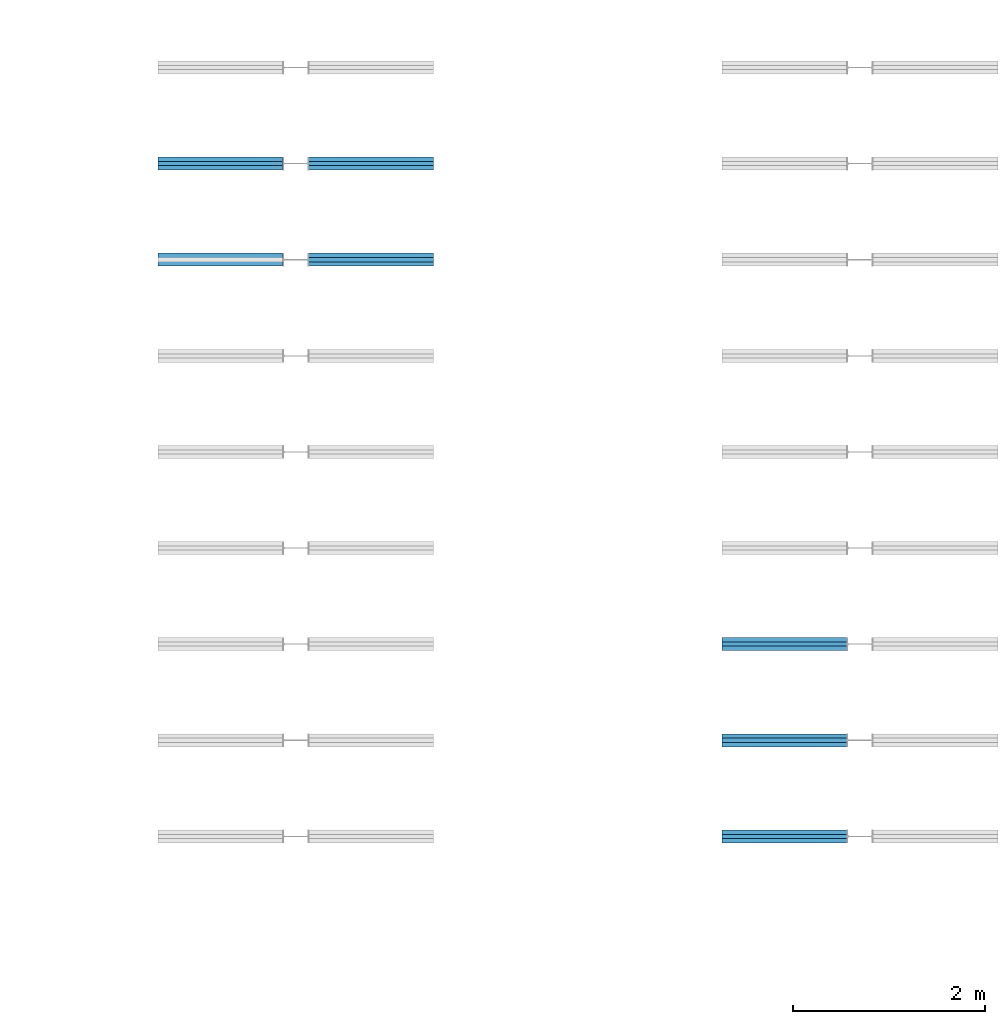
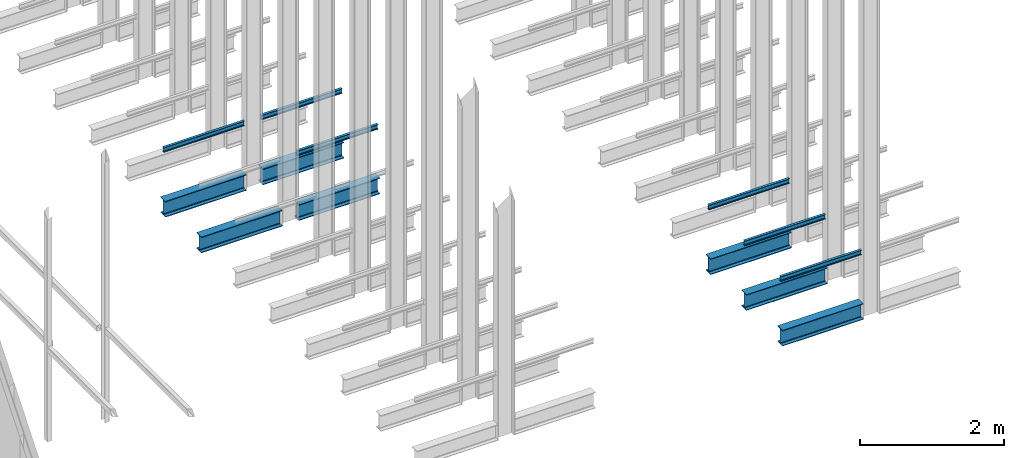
# One storey, part 160 of 302: 13 beams.
"""IFC2X3 building model written with IfcOpenShell, lengths in metres."""

from ifc_helpers import new_model, entity, si_unit, converted_unit, derived_unit, direction, frame, frame_2d, origin, place, context, subcontext, project, spatial, polyline, circle_curve, parameter, trimmed, segment, composite_curve, i_section, outline, extrude, material, type_object, element, save


model = new_model("IFC2X3")

# Units and contexts
model_context = context("Model", 3, precision=1e-05, world=origin(), true_north=direction((6.12303176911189e-17, 1.0)))
body_context = subcontext(model_context, "Body", "Model", "MODEL_VIEW")
ifc_project = project(units=[si_unit("LENGTHUNIT", "METRE"), si_unit("AREAUNIT", "SQUARE_METRE"), si_unit("VOLUMEUNIT", "CUBIC_METRE"), converted_unit("PLANEANGLEUNIT", "DEGREE", entity("IfcRatioMeasure", 0.0174532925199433), si_unit("PLANEANGLEUNIT", "RADIAN"), dimensions=[0, 0, 0, 0, 0, 0, 0]), si_unit("MASSUNIT", "GRAM", prefix="KILO"), derived_unit("MASSDENSITYUNIT", [(si_unit("MASSUNIT", "GRAM", prefix="KILO"), 1), (si_unit("LENGTHUNIT", "METRE"), -3)]), derived_unit("MOMENTOFINERTIAUNIT", [(si_unit("LENGTHUNIT", "METRE"), 4)]), si_unit("TIMEUNIT", "SECOND"), si_unit("FREQUENCYUNIT", "HERTZ"), si_unit("THERMODYNAMICTEMPERATUREUNIT", "DEGREE_CELSIUS"), derived_unit("THERMALTRANSMITTANCEUNIT", [(si_unit("MASSUNIT", "GRAM", prefix="KILO"), 1), (si_unit("THERMODYNAMICTEMPERATUREUNIT", "KELVIN"), -1), (si_unit("TIMEUNIT", "SECOND"), -3)]), derived_unit("VOLUMETRICFLOWRATEUNIT", [(si_unit("LENGTHUNIT", "METRE"), 3), (si_unit("TIMEUNIT", "SECOND"), -1)]), si_unit("ELECTRICCURRENTUNIT", "AMPERE"), si_unit("ELECTRICVOLTAGEUNIT", "VOLT"), si_unit("POWERUNIT", "WATT"), si_unit("FORCEUNIT", "NEWTON", prefix="KILO"), si_unit("ILLUMINANCEUNIT", "LUX"), si_unit("LUMINOUSFLUXUNIT", "LUMEN"), si_unit("LUMINOUSINTENSITYUNIT", "CANDELA"), derived_unit("USERDEFINED", [(si_unit("MASSUNIT", "GRAM", prefix="KILO"), -1), (si_unit("LENGTHUNIT", "METRE"), -2), (si_unit("TIMEUNIT", "SECOND"), 3), (si_unit("LUMINOUSFLUXUNIT", "LUMEN"), 1)]), derived_unit("LINEARVELOCITYUNIT", [(si_unit("LENGTHUNIT", "METRE"), 1), (si_unit("TIMEUNIT", "SECOND"), -1)]), si_unit("PRESSUREUNIT", "PASCAL"), derived_unit("USERDEFINED", [(si_unit("LENGTHUNIT", "METRE"), -2), (si_unit("MASSUNIT", "GRAM", prefix="KILO"), 1), (si_unit("TIMEUNIT", "SECOND"), -2)]), derived_unit("LINEARFORCEUNIT", [(si_unit("MASSUNIT", "GRAM", prefix="KILO"), 1), (si_unit("LENGTHUNIT", "METRE"), 1), (si_unit("TIMEUNIT", "SECOND"), -2), (si_unit("LENGTHUNIT", "METRE"), -1)]), derived_unit("PLANARFORCEUNIT", [(si_unit("MASSUNIT", "GRAM", prefix="KILO"), 1), (si_unit("LENGTHUNIT", "METRE"), 1), (si_unit("TIMEUNIT", "SECOND"), -2), (si_unit("LENGTHUNIT", "METRE"), -2)])], contexts=[model_context])

# Site, building, storey
site_placement = place(None, origin())
site = spatial("IfcSite", under=ifc_project, at=site_placement, Name="Default", CompositionType="ELEMENT")
building_placement = place(site_placement, origin())
building = spatial("IfcBuilding", under=site, at=building_placement, CompositionType="ELEMENT")
storey_placement = place(building_placement, frame((0.0, 0.0, -1.3)))
storey = spatial("IfcBuildingStorey", under=building, at=storey_placement, Name="00_EG", CompositionType="ELEMENT", Elevation=-1.3)

# Beams
ifc_material = material(Name="Metall - Baustahl S235")
beam_type_1 = type_object("IfcBeamType", Name="IPN Träger:IPN 80", PredefinedType="NOTDEFINED")
beam_1_placement = place(storey_placement, frame((-170.510111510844, 30.994588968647, 2.42)))
element("IfcBeam", 1, at=beam_1_placement, inside=storey, type_object=beam_type_1, material=ifc_material, Name="IPN Träger:IPN 80", ObjectType="IPN Träger:IPN 80", context=body_context, shape_type="SweptSolid", body=[
    extrude(outline(composite_curve([segment(polyline([(0.0375704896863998, -0.0210000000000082), (0.0399999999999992, -0.0210000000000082)]), True, "CONTINUOUS"), segment(polyline([(0.0399999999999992, -0.0210000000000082), (0.0399999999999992, 0.0209999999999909)]), True, "CONTINUOUS"), segment(polyline([(0.039999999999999, 0.0209999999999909), (0.037570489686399, 0.0209999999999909)]), True, "CONTINUOUS"), segment(trimmed(circle_curve(frame_2d((0.037570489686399, 0.0186999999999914), x_axis=(0.0, 1.0)), 0.00230000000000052), [parameter(0.0)], [parameter(82.0299999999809)], True, "PARAMETER"), True, "CONTINUOUS"), segment(polyline([(0.0352927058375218, 0.019018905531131), (0.0333732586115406, 0.00530924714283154)]), True, "CONTINUOUS"), segment(trimmed(circle_curve(frame_2d((0.0295109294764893, 0.00584999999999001), x_axis=(0.990340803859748, -0.138654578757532)), 0.00389999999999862), [parameter(277.969999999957)], [parameter(0.0)], True, "PARAMETER"), False, "CONTINUOUS"), segment(polyline([(0.0295109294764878, 0.00194999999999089), (-0.0295109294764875, 0.00194999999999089)]), True, "CONTINUOUS"), segment(trimmed(circle_curve(frame_2d((-0.029510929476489, 0.00584999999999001), x_axis=(0.0, -1.0)), 0.00389999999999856), [parameter(277.969999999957)], [parameter(0.0)], True, "PARAMETER"), False, "CONTINUOUS"), segment(polyline([(-0.0333732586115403, 0.00530924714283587), (-0.0352927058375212, 0.0190189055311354)]), True, "CONTINUOUS"), segment(trimmed(circle_curve(frame_2d((-0.0375704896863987, 0.0186999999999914), x_axis=(0.990340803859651, 0.138654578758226)), 0.00230000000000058), [parameter(0.0)], [parameter(82.029999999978)], True, "PARAMETER"), True, "CONTINUOUS"), segment(polyline([(-0.0375704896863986, 0.0209999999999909), (-0.0400000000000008, 0.0209999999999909)]), True, "CONTINUOUS"), segment(polyline([(-0.0400000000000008, 0.0209999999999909), (-0.0400000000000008, -0.0210000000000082)]), True, "CONTINUOUS"), segment(polyline([(-0.0400000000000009, -0.0210000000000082), (-0.037570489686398, -0.0210000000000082)]), True, "CONTINUOUS"), segment(trimmed(circle_curve(frame_2d((-0.0375704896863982, -0.0187000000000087), x_axis=(0.0, -1.0)), 0.00230000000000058), [parameter(0.0)], [parameter(82.029999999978)], True, "PARAMETER"), True, "CONTINUOUS"), segment(polyline([(-0.0352927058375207, -0.0190189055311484), (-0.0333732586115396, -0.0053092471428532)]), True, "CONTINUOUS"), segment(trimmed(circle_curve(frame_2d((-0.0295109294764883, -0.00585000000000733), x_axis=(-0.990340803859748, 0.138654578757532)), 0.00389999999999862), [parameter(277.969999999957)], [parameter(0.0)], True, "PARAMETER"), False, "CONTINUOUS"), segment(polyline([(-0.0295109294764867, -0.00195000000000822), (0.0295109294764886, -0.00195000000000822)]), True, "CONTINUOUS"), segment(trimmed(circle_curve(frame_2d((0.0295109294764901, -0.00585000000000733), x_axis=(0.0, 1.0)), 0.00389999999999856), [parameter(277.969999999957)], [parameter(0.0)], True, "PARAMETER"), False, "CONTINUOUS"), segment(polyline([(0.0333732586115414, -0.0053092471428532), (0.0352927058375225, -0.0190189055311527)]), True, "CONTINUOUS"), segment(trimmed(circle_curve(frame_2d((0.0375704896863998, -0.0187000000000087), x_axis=(-0.990340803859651, -0.138654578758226)), 0.00230000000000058), [parameter(0.0)], [parameter(82.029999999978)], True, "PARAMETER"), True, "CONTINUOUS")], self_intersect=False)), frame((0.000100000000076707, 0.0210000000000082, -0.0400000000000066), z_axis=(1.0, 0.0, 0.0), x_axis=(0.0, 0.0, -1.0)), (0.0, 0.0, 1.0), 1.29990000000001),
])
beam_2_placement = place(storey_placement, frame((-170.780111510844, 31.036588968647, 2.42), z_axis=(0.0, 0.0, 1.0), x_axis=(-1.0, 0.0, 0.0)))
element("IfcBeam", 2, at=beam_2_placement, inside=storey, type_object=beam_type_1, material=ifc_material, Name="IPN Träger:IPN 80", ObjectType="IPN Träger:IPN 80", context=body_context, shape_type="SweptSolid", body=[
    extrude(outline(composite_curve([segment(polyline([(0.0375704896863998, -0.0209999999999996), (0.0399999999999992, -0.0209999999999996)]), True, "CONTINUOUS"), segment(polyline([(0.0399999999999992, -0.0209999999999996), (0.0399999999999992, 0.0209999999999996)]), True, "CONTINUOUS"), segment(polyline([(0.039999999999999, 0.0209999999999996), (0.037570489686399, 0.0209999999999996)]), True, "CONTINUOUS"), segment(trimmed(circle_curve(frame_2d((0.037570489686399, 0.0187000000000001), x_axis=(0.0, 1.0)), 0.00230000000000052), [parameter(0.0)], [parameter(82.0299999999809)], True, "PARAMETER"), True, "CONTINUOUS"), segment(polyline([(0.0352927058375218, 0.0190189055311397), (0.0333732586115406, 0.00530924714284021)]), True, "CONTINUOUS"), segment(trimmed(circle_curve(frame_2d((0.0295109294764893, 0.00584999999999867), x_axis=(0.990340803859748, -0.138654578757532)), 0.00389999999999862), [parameter(277.969999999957)], [parameter(0.0)], True, "PARAMETER"), False, "CONTINUOUS"), segment(polyline([(0.0295109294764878, 0.00194999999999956), (-0.0295109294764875, 0.00194999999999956)]), True, "CONTINUOUS"), segment(trimmed(circle_curve(frame_2d((-0.029510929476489, 0.00584999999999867), x_axis=(0.0, -1.0)), 0.00389999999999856), [parameter(277.969999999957)], [parameter(0.0)], True, "PARAMETER"), False, "CONTINUOUS"), segment(polyline([(-0.0333732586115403, 0.00530924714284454), (-0.0352927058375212, 0.019018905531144)]), True, "CONTINUOUS"), segment(trimmed(circle_curve(frame_2d((-0.0375704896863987, 0.0187000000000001), x_axis=(0.990340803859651, 0.138654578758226)), 0.00230000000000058), [parameter(0.0)], [parameter(82.029999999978)], True, "PARAMETER"), True, "CONTINUOUS"), segment(polyline([(-0.0375704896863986, 0.0209999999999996), (-0.0400000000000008, 0.0209999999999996)]), True, "CONTINUOUS"), segment(polyline([(-0.0400000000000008, 0.0209999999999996), (-0.0400000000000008, -0.0209999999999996)]), True, "CONTINUOUS"), segment(polyline([(-0.0400000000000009, -0.0209999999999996), (-0.037570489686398, -0.0209999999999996)]), True, "CONTINUOUS"), segment(trimmed(circle_curve(frame_2d((-0.0375704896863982, -0.0187000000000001), x_axis=(0.0, -1.0)), 0.00230000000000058), [parameter(0.0)], [parameter(82.029999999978)], True, "PARAMETER"), True, "CONTINUOUS"), segment(polyline([(-0.0352927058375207, -0.0190189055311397), (-0.0333732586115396, -0.00530924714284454)]), True, "CONTINUOUS"), segment(trimmed(circle_curve(frame_2d((-0.0295109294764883, -0.00584999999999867), x_axis=(-0.990340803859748, 0.138654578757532)), 0.00389999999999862), [parameter(277.969999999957)], [parameter(0.0)], True, "PARAMETER"), False, "CONTINUOUS"), segment(polyline([(-0.0295109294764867, -0.00194999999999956), (0.0295109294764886, -0.00194999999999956)]), True, "CONTINUOUS"), segment(trimmed(circle_curve(frame_2d((0.0295109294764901, -0.00584999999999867), x_axis=(0.0, 1.0)), 0.00389999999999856), [parameter(277.969999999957)], [parameter(0.0)], True, "PARAMETER"), False, "CONTINUOUS"), segment(polyline([(0.0333732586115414, -0.00530924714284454), (0.0352927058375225, -0.019018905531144)]), True, "CONTINUOUS"), segment(trimmed(circle_curve(frame_2d((0.0375704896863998, -0.0187000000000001), x_axis=(-0.990340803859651, -0.138654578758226)), 0.00230000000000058), [parameter(0.0)], [parameter(82.029999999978)], True, "PARAMETER"), True, "CONTINUOUS")], self_intersect=False)), frame((0.000100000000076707, 0.0209999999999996, -0.0400000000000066), z_axis=(1.0, 0.0, 0.0), x_axis=(0.0, 0.0, -1.0)), (0.0, 0.0, 1.0), 1.29990000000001),
])
beam_3_placement = place(storey_placement, frame((-170.510111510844, 29.994588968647, 2.42)))
element("IfcBeam", 3, at=beam_3_placement, inside=storey, type_object=beam_type_1, material=ifc_material, Name="IPN Träger:IPN 80", ObjectType="IPN Träger:IPN 80", context=body_context, shape_type="SweptSolid", body=[
    extrude(outline(composite_curve([segment(polyline([(0.0375704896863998, -0.0209999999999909), (0.0399999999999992, -0.0209999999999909)]), True, "CONTINUOUS"), segment(polyline([(0.0399999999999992, -0.0209999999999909), (0.0399999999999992, 0.0210000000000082)]), True, "CONTINUOUS"), segment(polyline([(0.039999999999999, 0.0210000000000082), (0.037570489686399, 0.0210000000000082)]), True, "CONTINUOUS"), segment(trimmed(circle_curve(frame_2d((0.037570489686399, 0.0187000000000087), x_axis=(0.0, 1.0)), 0.00230000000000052), [parameter(0.0)], [parameter(82.0299999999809)], True, "PARAMETER"), True, "CONTINUOUS"), segment(polyline([(0.0352927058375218, 0.0190189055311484), (0.0333732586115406, 0.00530924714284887)]), True, "CONTINUOUS"), segment(trimmed(circle_curve(frame_2d((0.0295109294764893, 0.00585000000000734), x_axis=(0.990340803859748, -0.138654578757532)), 0.00389999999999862), [parameter(277.969999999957)], [parameter(0.0)], True, "PARAMETER"), False, "CONTINUOUS"), segment(polyline([(0.0295109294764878, 0.00195000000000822), (-0.0295109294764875, 0.00195000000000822)]), True, "CONTINUOUS"), segment(trimmed(circle_curve(frame_2d((-0.029510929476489, 0.00585000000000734), x_axis=(0.0, -1.0)), 0.00389999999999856), [parameter(277.969999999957)], [parameter(0.0)], True, "PARAMETER"), False, "CONTINUOUS"), segment(polyline([(-0.0333732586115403, 0.0053092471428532), (-0.0352927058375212, 0.0190189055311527)]), True, "CONTINUOUS"), segment(trimmed(circle_curve(frame_2d((-0.0375704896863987, 0.0187000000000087), x_axis=(0.990340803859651, 0.138654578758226)), 0.00230000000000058), [parameter(0.0)], [parameter(82.029999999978)], True, "PARAMETER"), True, "CONTINUOUS"), segment(polyline([(-0.0375704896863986, 0.0210000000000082), (-0.0400000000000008, 0.0210000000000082)]), True, "CONTINUOUS"), segment(polyline([(-0.0400000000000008, 0.0210000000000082), (-0.0400000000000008, -0.0209999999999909)]), True, "CONTINUOUS"), segment(polyline([(-0.0400000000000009, -0.0209999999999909), (-0.037570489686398, -0.0209999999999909)]), True, "CONTINUOUS"), segment(trimmed(circle_curve(frame_2d((-0.0375704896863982, -0.0186999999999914), x_axis=(0.0, -1.0)), 0.00230000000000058), [parameter(0.0)], [parameter(82.029999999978)], True, "PARAMETER"), True, "CONTINUOUS"), segment(polyline([(-0.0352927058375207, -0.019018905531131), (-0.0333732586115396, -0.00530924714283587)]), True, "CONTINUOUS"), segment(trimmed(circle_curve(frame_2d((-0.0295109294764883, -0.00584999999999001), x_axis=(-0.990340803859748, 0.138654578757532)), 0.00389999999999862), [parameter(277.969999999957)], [parameter(0.0)], True, "PARAMETER"), False, "CONTINUOUS"), segment(polyline([(-0.0295109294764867, -0.00194999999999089), (0.0295109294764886, -0.00194999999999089)]), True, "CONTINUOUS"), segment(trimmed(circle_curve(frame_2d((0.0295109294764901, -0.00584999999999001), x_axis=(0.0, 1.0)), 0.00389999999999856), [parameter(277.969999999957)], [parameter(0.0)], True, "PARAMETER"), False, "CONTINUOUS"), segment(polyline([(0.0333732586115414, -0.00530924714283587), (0.0352927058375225, -0.0190189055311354)]), True, "CONTINUOUS"), segment(trimmed(circle_curve(frame_2d((0.0375704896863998, -0.0186999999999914), x_axis=(-0.990340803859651, -0.138654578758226)), 0.00230000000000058), [parameter(0.0)], [parameter(82.029999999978)], True, "PARAMETER"), True, "CONTINUOUS")], self_intersect=False)), frame((0.000100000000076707, 0.0209999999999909, -0.0400000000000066), z_axis=(1.0, 0.0, 0.0), x_axis=(0.0, 0.0, -1.0)), (0.0, 0.0, 1.0), 1.29990000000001),
])
beam_4_placement = place(storey_placement, frame((-164.910111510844, 26.036588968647, 2.42), z_axis=(0.0, 0.0, 1.0), x_axis=(-1.0, 0.0, 0.0)))
element("IfcBeam", 4, at=beam_4_placement, inside=storey, type_object=beam_type_1, material=ifc_material, Name="IPN Träger:IPN 80", ObjectType="IPN Träger:IPN 80", context=body_context, shape_type="SweptSolid", body=[
    extrude(outline(composite_curve([segment(polyline([(0.0375704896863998, -0.0209999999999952), (0.0399999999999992, -0.0209999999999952)]), True, "CONTINUOUS"), segment(polyline([(0.0399999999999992, -0.0209999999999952), (0.0399999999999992, 0.0210000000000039)]), True, "CONTINUOUS"), segment(polyline([(0.039999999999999, 0.0210000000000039), (0.037570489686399, 0.0210000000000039)]), True, "CONTINUOUS"), segment(trimmed(circle_curve(frame_2d((0.037570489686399, 0.0187000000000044), x_axis=(0.0, 1.0)), 0.00230000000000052), [parameter(0.0)], [parameter(82.0299999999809)], True, "PARAMETER"), True, "CONTINUOUS"), segment(polyline([(0.0352927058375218, 0.019018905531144), (0.0333732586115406, 0.00530924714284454)]), True, "CONTINUOUS"), segment(trimmed(circle_curve(frame_2d((0.0295109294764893, 0.005850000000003), x_axis=(0.990340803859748, -0.138654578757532)), 0.00389999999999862), [parameter(277.969999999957)], [parameter(0.0)], True, "PARAMETER"), False, "CONTINUOUS"), segment(polyline([(0.0295109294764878, 0.00195000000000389), (-0.0295109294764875, 0.00195000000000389)]), True, "CONTINUOUS"), segment(trimmed(circle_curve(frame_2d((-0.029510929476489, 0.005850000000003), x_axis=(0.0, -1.0)), 0.00389999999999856), [parameter(277.969999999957)], [parameter(0.0)], True, "PARAMETER"), False, "CONTINUOUS"), segment(polyline([(-0.0333732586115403, 0.00530924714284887), (-0.0352927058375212, 0.0190189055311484)]), True, "CONTINUOUS"), segment(trimmed(circle_curve(frame_2d((-0.0375704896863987, 0.0187000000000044), x_axis=(0.990340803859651, 0.138654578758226)), 0.00230000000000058), [parameter(0.0)], [parameter(82.029999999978)], True, "PARAMETER"), True, "CONTINUOUS"), segment(polyline([(-0.0375704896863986, 0.0210000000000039), (-0.0400000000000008, 0.0210000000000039)]), True, "CONTINUOUS"), segment(polyline([(-0.0400000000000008, 0.0210000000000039), (-0.0400000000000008, -0.0209999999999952)]), True, "CONTINUOUS"), segment(polyline([(-0.0400000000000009, -0.0209999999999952), (-0.037570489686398, -0.0209999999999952)]), True, "CONTINUOUS"), segment(trimmed(circle_curve(frame_2d((-0.0375704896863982, -0.0186999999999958), x_axis=(0.0, -1.0)), 0.00230000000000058), [parameter(0.0)], [parameter(82.029999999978)], True, "PARAMETER"), True, "CONTINUOUS"), segment(polyline([(-0.0352927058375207, -0.0190189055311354), (-0.0333732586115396, -0.00530924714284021)]), True, "CONTINUOUS"), segment(trimmed(circle_curve(frame_2d((-0.0295109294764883, -0.00584999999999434), x_axis=(-0.990340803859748, 0.138654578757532)), 0.00389999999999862), [parameter(277.969999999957)], [parameter(0.0)], True, "PARAMETER"), False, "CONTINUOUS"), segment(polyline([(-0.0295109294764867, -0.00194999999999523), (0.0295109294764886, -0.00194999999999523)]), True, "CONTINUOUS"), segment(trimmed(circle_curve(frame_2d((0.0295109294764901, -0.00584999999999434), x_axis=(0.0, 1.0)), 0.00389999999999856), [parameter(277.969999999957)], [parameter(0.0)], True, "PARAMETER"), False, "CONTINUOUS"), segment(polyline([(0.0333732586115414, -0.00530924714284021), (0.0352927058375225, -0.0190189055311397)]), True, "CONTINUOUS"), segment(trimmed(circle_curve(frame_2d((0.0375704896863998, -0.0186999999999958), x_axis=(-0.990340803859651, -0.138654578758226)), 0.00230000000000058), [parameter(0.0)], [parameter(82.029999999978)], True, "PARAMETER"), True, "CONTINUOUS")], self_intersect=False)), frame((0.000100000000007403, 0.0209999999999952, -0.0400000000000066), z_axis=(1.0, 0.0, 0.0), x_axis=(0.0, 0.0, -1.0)), (0.0, 0.0, 1.0), 1.29990000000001),
])
beam_5_placement = place(storey_placement, frame((-164.910111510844, 25.036588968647, 2.42), z_axis=(0.0, 0.0, 1.0), x_axis=(-1.0, 0.0, 0.0)))
element("IfcBeam", 5, at=beam_5_placement, inside=storey, type_object=beam_type_1, material=ifc_material, Name="IPN Träger:IPN 80", ObjectType="IPN Träger:IPN 80", context=body_context, shape_type="SweptSolid", body=[
    extrude(outline(composite_curve([segment(polyline([(0.0375704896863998, -0.0209999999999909), (0.0399999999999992, -0.0209999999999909)]), True, "CONTINUOUS"), segment(polyline([(0.0399999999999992, -0.0209999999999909), (0.0399999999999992, 0.0210000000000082)]), True, "CONTINUOUS"), segment(polyline([(0.039999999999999, 0.0210000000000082), (0.037570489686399, 0.0210000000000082)]), True, "CONTINUOUS"), segment(trimmed(circle_curve(frame_2d((0.037570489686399, 0.0187000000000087), x_axis=(0.0, 1.0)), 0.00230000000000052), [parameter(0.0)], [parameter(82.0299999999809)], True, "PARAMETER"), True, "CONTINUOUS"), segment(polyline([(0.0352927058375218, 0.0190189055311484), (0.0333732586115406, 0.00530924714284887)]), True, "CONTINUOUS"), segment(trimmed(circle_curve(frame_2d((0.0295109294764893, 0.00585000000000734), x_axis=(0.990340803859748, -0.138654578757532)), 0.00389999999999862), [parameter(277.969999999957)], [parameter(0.0)], True, "PARAMETER"), False, "CONTINUOUS"), segment(polyline([(0.0295109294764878, 0.00195000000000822), (-0.0295109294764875, 0.00195000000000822)]), True, "CONTINUOUS"), segment(trimmed(circle_curve(frame_2d((-0.029510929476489, 0.00585000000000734), x_axis=(0.0, -1.0)), 0.00389999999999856), [parameter(277.969999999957)], [parameter(0.0)], True, "PARAMETER"), False, "CONTINUOUS"), segment(polyline([(-0.0333732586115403, 0.0053092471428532), (-0.0352927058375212, 0.0190189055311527)]), True, "CONTINUOUS"), segment(trimmed(circle_curve(frame_2d((-0.0375704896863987, 0.0187000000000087), x_axis=(0.990340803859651, 0.138654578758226)), 0.00230000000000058), [parameter(0.0)], [parameter(82.029999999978)], True, "PARAMETER"), True, "CONTINUOUS"), segment(polyline([(-0.0375704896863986, 0.0210000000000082), (-0.0400000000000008, 0.0210000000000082)]), True, "CONTINUOUS"), segment(polyline([(-0.0400000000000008, 0.0210000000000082), (-0.0400000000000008, -0.0209999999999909)]), True, "CONTINUOUS"), segment(polyline([(-0.0400000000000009, -0.0209999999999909), (-0.037570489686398, -0.0209999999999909)]), True, "CONTINUOUS"), segment(trimmed(circle_curve(frame_2d((-0.0375704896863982, -0.0186999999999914), x_axis=(0.0, -1.0)), 0.00230000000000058), [parameter(0.0)], [parameter(82.029999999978)], True, "PARAMETER"), True, "CONTINUOUS"), segment(polyline([(-0.0352927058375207, -0.019018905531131), (-0.0333732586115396, -0.00530924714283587)]), True, "CONTINUOUS"), segment(trimmed(circle_curve(frame_2d((-0.0295109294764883, -0.00584999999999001), x_axis=(-0.990340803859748, 0.138654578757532)), 0.00389999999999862), [parameter(277.969999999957)], [parameter(0.0)], True, "PARAMETER"), False, "CONTINUOUS"), segment(polyline([(-0.0295109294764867, -0.00194999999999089), (0.0295109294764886, -0.00194999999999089)]), True, "CONTINUOUS"), segment(trimmed(circle_curve(frame_2d((0.0295109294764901, -0.00584999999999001), x_axis=(0.0, 1.0)), 0.00389999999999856), [parameter(277.969999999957)], [parameter(0.0)], True, "PARAMETER"), False, "CONTINUOUS"), segment(polyline([(0.0333732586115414, -0.00530924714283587), (0.0352927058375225, -0.0190189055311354)]), True, "CONTINUOUS"), segment(trimmed(circle_curve(frame_2d((0.0375704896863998, -0.0186999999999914), x_axis=(-0.990340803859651, -0.138654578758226)), 0.00230000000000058), [parameter(0.0)], [parameter(82.029999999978)], True, "PARAMETER"), True, "CONTINUOUS")], self_intersect=False)), frame((0.000100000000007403, 0.0209999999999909, -0.0400000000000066), z_axis=(1.0, 0.0, 0.0), x_axis=(0.0, 0.0, -1.0)), (0.0, 0.0, 1.0), 1.29990000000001),
])
beam_6_placement = place(storey_placement, frame((-164.910111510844, 24.036588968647, 2.42), z_axis=(0.0, 0.0, 1.0), x_axis=(-1.0, 0.0, 0.0)))
element("IfcBeam", 6, at=beam_6_placement, inside=storey, type_object=beam_type_1, material=ifc_material, Name="IPN Träger:IPN 80", ObjectType="IPN Träger:IPN 80", context=body_context, shape_type="SweptSolid", body=[
    extrude(outline(composite_curve([segment(polyline([(0.0375704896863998, -0.0210000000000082), (0.0399999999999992, -0.0210000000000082)]), True, "CONTINUOUS"), segment(polyline([(0.0399999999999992, -0.0210000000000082), (0.0399999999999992, 0.0209999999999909)]), True, "CONTINUOUS"), segment(polyline([(0.039999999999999, 0.0209999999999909), (0.037570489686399, 0.0209999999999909)]), True, "CONTINUOUS"), segment(trimmed(circle_curve(frame_2d((0.037570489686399, 0.0186999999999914), x_axis=(0.0, 1.0)), 0.00230000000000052), [parameter(0.0)], [parameter(82.0299999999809)], True, "PARAMETER"), True, "CONTINUOUS"), segment(polyline([(0.0352927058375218, 0.019018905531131), (0.0333732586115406, 0.00530924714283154)]), True, "CONTINUOUS"), segment(trimmed(circle_curve(frame_2d((0.0295109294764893, 0.00584999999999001), x_axis=(0.990340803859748, -0.138654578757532)), 0.00389999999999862), [parameter(277.969999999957)], [parameter(0.0)], True, "PARAMETER"), False, "CONTINUOUS"), segment(polyline([(0.0295109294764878, 0.00194999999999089), (-0.0295109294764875, 0.00194999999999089)]), True, "CONTINUOUS"), segment(trimmed(circle_curve(frame_2d((-0.029510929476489, 0.00584999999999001), x_axis=(0.0, -1.0)), 0.00389999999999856), [parameter(277.969999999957)], [parameter(0.0)], True, "PARAMETER"), False, "CONTINUOUS"), segment(polyline([(-0.0333732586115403, 0.00530924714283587), (-0.0352927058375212, 0.0190189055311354)]), True, "CONTINUOUS"), segment(trimmed(circle_curve(frame_2d((-0.0375704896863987, 0.0186999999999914), x_axis=(0.990340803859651, 0.138654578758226)), 0.00230000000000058), [parameter(0.0)], [parameter(82.029999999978)], True, "PARAMETER"), True, "CONTINUOUS"), segment(polyline([(-0.0375704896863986, 0.0209999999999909), (-0.0400000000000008, 0.0209999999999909)]), True, "CONTINUOUS"), segment(polyline([(-0.0400000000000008, 0.0209999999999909), (-0.0400000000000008, -0.0210000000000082)]), True, "CONTINUOUS"), segment(polyline([(-0.0400000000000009, -0.0210000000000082), (-0.037570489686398, -0.0210000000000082)]), True, "CONTINUOUS"), segment(trimmed(circle_curve(frame_2d((-0.0375704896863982, -0.0187000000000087), x_axis=(0.0, -1.0)), 0.00230000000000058), [parameter(0.0)], [parameter(82.029999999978)], True, "PARAMETER"), True, "CONTINUOUS"), segment(polyline([(-0.0352927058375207, -0.0190189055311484), (-0.0333732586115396, -0.0053092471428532)]), True, "CONTINUOUS"), segment(trimmed(circle_curve(frame_2d((-0.0295109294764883, -0.00585000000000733), x_axis=(-0.990340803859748, 0.138654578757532)), 0.00389999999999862), [parameter(277.969999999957)], [parameter(0.0)], True, "PARAMETER"), False, "CONTINUOUS"), segment(polyline([(-0.0295109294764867, -0.00195000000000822), (0.0295109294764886, -0.00195000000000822)]), True, "CONTINUOUS"), segment(trimmed(circle_curve(frame_2d((0.0295109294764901, -0.00585000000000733), x_axis=(0.0, 1.0)), 0.00389999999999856), [parameter(277.969999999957)], [parameter(0.0)], True, "PARAMETER"), False, "CONTINUOUS"), segment(polyline([(0.0333732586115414, -0.0053092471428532), (0.0352927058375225, -0.0190189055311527)]), True, "CONTINUOUS"), segment(trimmed(circle_curve(frame_2d((0.0375704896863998, -0.0187000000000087), x_axis=(-0.990340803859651, -0.138654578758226)), 0.00230000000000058), [parameter(0.0)], [parameter(82.029999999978)], True, "PARAMETER"), True, "CONTINUOUS")], self_intersect=False)), frame((0.000100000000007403, 0.0210000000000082, -0.0400000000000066), z_axis=(1.0, 0.0, 0.0), x_axis=(0.0, 0.0, -1.0)), (0.0, 0.0, 1.0), 1.29990000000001),
])
beam_type_2 = type_object("IfcBeamType", Name="IPE Träger:IPE 270", PredefinedType="NOTDEFINED")
beam_7_placement = place(storey_placement, frame((-164.910111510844, 24.083088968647, 1.54000000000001), z_axis=(0.0, 0.0, 1.0), x_axis=(-1.0, 0.0, 0.0)))
element("IfcBeam", 7, at=beam_7_placement, inside=storey, type_object=beam_type_2, material=ifc_material, Name="IPE Träger:IPE 270", ObjectType="IPE Träger:IPE 270", context=body_context, shape_type="SweptSolid", body=[
    extrude(i_section(OverallWidth=0.134999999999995, OverallDepth=0.27, WebThickness=0.00660000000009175, FlangeThickness=0.0102000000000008, FilletRadius=0.0150000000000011, at=frame_2d((5.96744875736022e-16, -6.49480469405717e-15), x_axis=(0.0, 1.0))), frame((9.99999999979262e-05, 0.0675000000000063, -0.135000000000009), z_axis=(1.0, 0.0, 0.0), x_axis=(0.0, 0.0, -1.0)), (0.0, 0.0, 1.0), 1.29990000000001),
])
beam_8_placement = place(storey_placement, frame((-164.910111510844, 25.083088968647, 1.54000000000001), z_axis=(0.0, 0.0, 1.0), x_axis=(-1.0, 0.0, 0.0)))
element("IfcBeam", 8, at=beam_8_placement, inside=storey, type_object=beam_type_2, material=ifc_material, Name="IPE Träger:IPE 270", ObjectType="IPE Träger:IPE 270", context=body_context, shape_type="SweptSolid", body=[
    extrude(i_section(OverallWidth=0.134999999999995, OverallDepth=0.27, WebThickness=0.00660000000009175, FlangeThickness=0.0102000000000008, FilletRadius=0.0150000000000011, at=frame_2d((5.96744875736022e-16, 2.16493489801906e-15), x_axis=(0.0, 1.0))), frame((9.99999999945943e-05, 0.0674999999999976, -0.135000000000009), z_axis=(1.0, 0.0, 0.0), x_axis=(0.0, 0.0, -1.0)), (0.0, 0.0, 1.0), 1.29990000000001),
])
beam_9_placement = place(storey_placement, frame((-164.910111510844, 26.083088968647, 1.54000000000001), z_axis=(0.0, 0.0, 1.0), x_axis=(-1.0, 0.0, 0.0)))
element("IfcBeam", 9, at=beam_9_placement, inside=storey, type_object=beam_type_2, material=ifc_material, Name="IPE Träger:IPE 270", ObjectType="IPE Träger:IPE 270", context=body_context, shape_type="SweptSolid", body=[
    extrude(i_section(OverallWidth=0.134999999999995, OverallDepth=0.27, WebThickness=0.00660000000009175, FlangeThickness=0.0102000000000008, FilletRadius=0.0150000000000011, at=frame_2d((5.96744875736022e-16, 2.16493489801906e-15), x_axis=(0.0, 1.0))), frame((0.000100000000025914, 0.0674999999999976, -0.135000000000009), z_axis=(1.0, 0.0, 0.0), x_axis=(0.0, 0.0, -1.0)), (0.0, 0.0, 1.0), 1.29990000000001),
])
beam_10_placement = place(storey_placement, frame((-170.780111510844, 30.083088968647, 1.54000000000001), z_axis=(0.0, 0.0, 1.0), x_axis=(-1.0, 0.0, 0.0)))
element("IfcBeam", 10, at=beam_10_placement, inside=storey, type_object=beam_type_2, material=ifc_material, Name="IPE Träger:IPE 270", ObjectType="IPE Träger:IPE 270", context=body_context, shape_type="SweptSolid", body=[
    extrude(i_section(OverallWidth=0.134999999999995, OverallDepth=0.27, WebThickness=0.00660000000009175, FlangeThickness=0.0102000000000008, FilletRadius=0.0150000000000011, at=frame_2d((5.96744875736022e-16, 2.16493489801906e-15), x_axis=(0.0, 1.0))), frame((0.000100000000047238, 0.0674999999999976, -0.135000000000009), z_axis=(1.0, 0.0, 0.0), x_axis=(0.0, 0.0, -1.0)), (0.0, 0.0, 1.0), 1.29990000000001),
])
beam_11_placement = place(storey_placement, frame((-170.510111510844, 30.083088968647, 1.54000000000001)))
element("IfcBeam", 11, at=beam_11_placement, inside=storey, type_object=beam_type_2, material=ifc_material, Name="IPE Träger:IPE 270", ObjectType="IPE Träger:IPE 270", context=body_context, shape_type="SweptSolid", body=[
    extrude(i_section(OverallWidth=0.134999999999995, OverallDepth=0.27, WebThickness=0.00660000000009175, FlangeThickness=0.0102000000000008, FilletRadius=0.0150000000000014, at=frame_2d((5.96744875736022e-16, 2.16493489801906e-15), x_axis=(0.0, 1.0))), frame((0.000100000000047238, -0.0674999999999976, -0.135000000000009), z_axis=(1.0, 0.0, 0.0), x_axis=(0.0, 0.0, -1.0)), (0.0, 0.0, 1.0), 1.29990000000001),
])
beam_12_placement = place(storey_placement, frame((-170.780111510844, 31.083088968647, 1.54000000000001), z_axis=(0.0, 0.0, 1.0), x_axis=(-1.0, 0.0, 0.0)))
element("IfcBeam", 12, at=beam_12_placement, inside=storey, type_object=beam_type_2, material=ifc_material, Name="IPE Träger:IPE 270", ObjectType="IPE Träger:IPE 270", context=body_context, shape_type="SweptSolid", body=[
    extrude(i_section(OverallWidth=0.134999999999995, OverallDepth=0.27, WebThickness=0.00660000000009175, FlangeThickness=0.0102000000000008, FilletRadius=0.0150000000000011, at=frame_2d((5.96744875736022e-16, 2.16493489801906e-15), x_axis=(0.0, 1.0))), frame((0.000100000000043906, 0.0674999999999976, -0.135000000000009), z_axis=(1.0, 0.0, 0.0), x_axis=(0.0, 0.0, -1.0)), (0.0, 0.0, 1.0), 1.29990000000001),
])
beam_13_placement = place(storey_placement, frame((-170.510111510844, 31.083088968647, 1.54000000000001)))
element("IfcBeam", 13, at=beam_13_placement, inside=storey, type_object=beam_type_2, material=ifc_material, Name="IPE Träger:IPE 270", ObjectType="IPE Träger:IPE 270", context=body_context, shape_type="SweptSolid", body=[
    extrude(i_section(OverallWidth=0.134999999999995, OverallDepth=0.27, WebThickness=0.00660000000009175, FlangeThickness=0.0102000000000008, FilletRadius=0.0150000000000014, at=frame_2d((5.96744875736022e-16, -2.16493489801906e-15), x_axis=(0.0, 1.0))), frame((0.000100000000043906, -0.0674999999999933, -0.135000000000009), z_axis=(1.0, 0.0, 0.0), x_axis=(0.0, 0.0, -1.0)), (0.0, 0.0, 1.0), 1.29990000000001),
])

save(model, "model.ifc")
